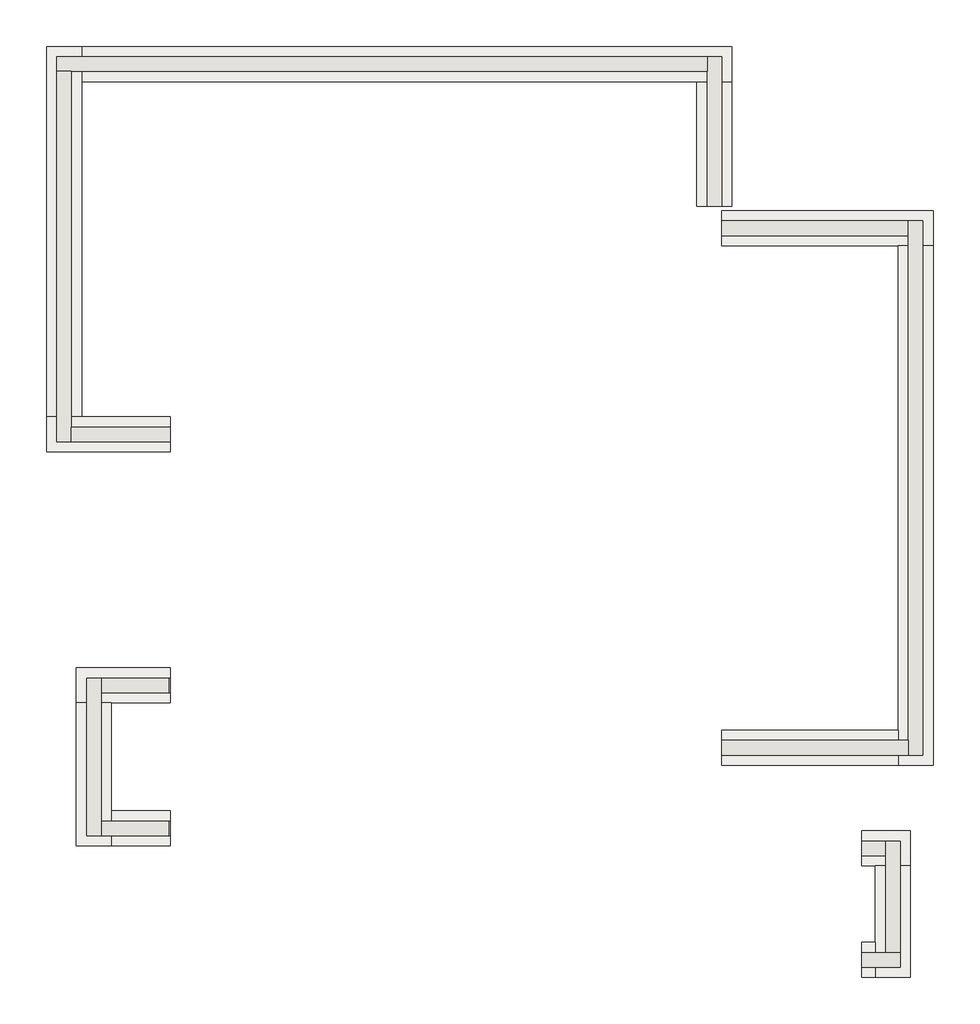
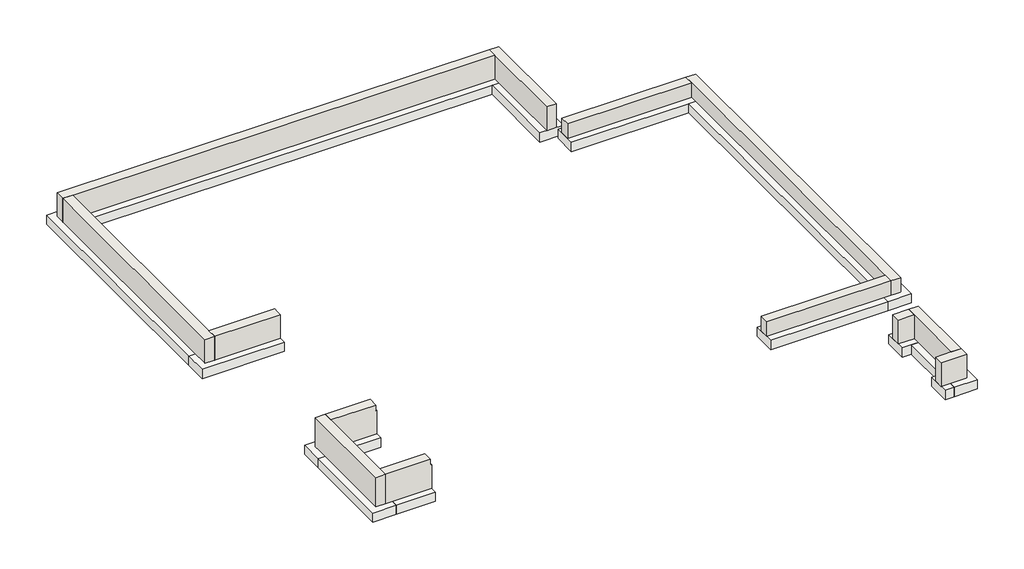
# One storey: 13 footings, 13 walls.
"""IFC4 building model written with IfcOpenShell, lengths in millimetres."""

from ifc_helpers import new_model, si_unit, frame, origin, place, context, project, spatial, polyline, outline, extrude, faceted_brep, element, save

model = new_model("IFC4")

# Units and contexts
model_context = context("Model", 3, world=origin())
ifc_project = project(units=[si_unit("LENGTHUNIT", "METRE", prefix="MILLI")], contexts=[model_context])

# Site, building, storey
site = spatial("IfcSite", under=ifc_project)
building = spatial("IfcBuilding", under=site)
storey = spatial("IfcBuildingStorey", under=building, Name="Garage T.O. Footing", Elevation=-914.4)

# Footings
placement = place(None, origin())
element("IfcFooting", 1, ObjectType="Bearing Footing - 24\" x 10\"", at=placement, inside=storey, context=model_context, shape_type="Brep", body=[
    faceted_brep([(-10703.9230992, -411.3827303, -914.4), (-10703.9230992, -1020.9827303, -914.4), (-10703.9230992, -1020.9827303, -1168.4), (-10703.9230992, -411.3827303, -1168.4), (-12343.8105992, -1020.9827303, -914.4), (-11734.2105992, -1020.9827303, -914.4), (-12343.8105992, -411.3827303, -914.4), (-12343.8105992, -411.3827303, -1168.4), (-12343.8105992, -1020.9827303, -1168.4), (-11734.2105992, -1020.9827303, -1168.4)], [[[0, 1, 2, 3]], [[4, 5, 1, 0, 6]], [[7, 6, 0, 3]], [[8, 7, 3, 2, 9]], [[4, 8, 9, 2, 1, 5]], [[4, 6, 7, 8]]]),
])
element("IfcFooting", 2, ObjectType="Bearing Footing - 24\" x 10\"", at=placement, inside=storey, context=model_context, shape_type="Brep", body=[
    faceted_brep([(-12343.8105992, -3510.1827303, -914.4), (-11734.2105992, -3510.1827303, -914.4), (-11734.2105992, -2900.5827303, -914.4), (-11734.2105992, -1020.9827303, -914.4), (-12343.8105992, -1020.9827303, -914.4), (-11734.2105992, -3510.1827303, -1168.4), (-11734.2105992, -2900.5827303, -1168.4), (-11734.2105992, -1020.9827303, -1168.4), (-12343.8105992, -3510.1827303, -1168.4), (-12343.8105992, -1020.9827303, -1168.4)], [[[0, 1, 2, 3, 4]], [[1, 5, 6, 7, 3, 2]], [[5, 8, 9, 7, 6]], [[8, 0, 4, 9]], [[4, 3, 7, 9]], [[1, 0, 8, 5]]]),
])
element("IfcFooting", 3, ObjectType="Bearing Footing - 24\" x 10\"", at=placement, inside=storey, context=model_context, shape_type="SweptSolid", body=[
    extrude(outline(polyline([(-10703.9230992, -2900.5827303), (-10703.9230992, -3510.1827303), (-11734.2105992, -3510.1827303), (-11734.2105992, -2900.5827303), (-10703.9230992, -2900.5827303)])), frame((0.0, 0.0, -1168.4), z_axis=(0.0, 0.0, 1.0), x_axis=(1.0, 0.0, 0.0)), (0.0, 0.0, 1.0), 254.0),
])
element("IfcFooting", 4, ObjectType="Bearing Footing - 24\" x 10\"", at=placement, inside=storey, context=model_context, shape_type="Brep", body=[
    faceted_brep([(1335.6769008, -3859.4327303, -914.4), (1335.6769008, -3249.8327303, -914.4), (1335.6769008, -3249.8327303, -1168.4), (1335.6769008, -3859.4327303, -1168.4), (2183.4019008, -3249.8327303, -914.4), (1573.8019008, -3859.4327303, -914.4), (2183.4019008, -3859.4327303, -914.4), (2183.4019008, -3859.4327303, -1168.4), (1573.8019008, -3859.4327303, -1168.4), (2183.4019008, -3249.8327303, -1168.4)], [[[0, 1, 2, 3]], [[4, 1, 0, 5, 6]], [[7, 6, 5, 0, 3, 8]], [[9, 7, 8, 3, 2]], [[4, 9, 2, 1]], [[4, 6, 7, 9]]]),
])
element("IfcFooting", 5, ObjectType="Bearing Footing - 24\" x 10\"", at=placement, inside=storey, context=model_context, shape_type="Brep", body=[
    faceted_brep([(1573.8019008, -5802.5327303, -914.4), (2183.4019008, -5802.5327303, -914.4), (2183.4019008, -3859.4327303, -914.4), (1573.8019008, -3859.4327303, -914.4), (1573.8019008, -5192.9327303, -914.4), (1573.8019008, -5802.5327303, -1168.4), (1573.8019008, -3859.4327303, -1168.4), (1573.8019008, -5192.9327303, -1168.4), (2183.4019008, -5802.5327303, -1168.4), (2183.4019008, -3859.4327303, -1168.4)], [[[0, 1, 2, 3, 4]], [[5, 0, 4, 3, 6, 7]], [[8, 5, 7, 6, 9]], [[1, 8, 9, 2]], [[3, 2, 9, 6]], [[1, 0, 5, 8]]]),
])
element("IfcFooting", 6, ObjectType="Bearing Footing - 24\" x 10\"", at=placement, inside=storey, context=model_context, shape_type="SweptSolid", body=[
    extrude(outline(polyline([(1335.6769008, -5802.5327303), (1335.6769008, -5192.9327303), (1573.8019008, -5192.9327303), (1573.8019008, -5802.5327303), (1335.6769008, -5802.5327303)])), frame((0.0, 0.0, -1168.4), z_axis=(0.0, 0.0, 1.0), x_axis=(1.0, 0.0, 0.0)), (0.0, 0.0, 1.0), 254.0),
])
element("IfcFooting", 7, ObjectType="Bearing Footing - 24\" x 10\"", at=placement, inside=storey, context=model_context, shape_type="Brep", body=[
    faceted_brep([(-10703.9230992, 3960.5922697, -914.4), (-10703.9230992, 3350.9922697, -914.4), (-10703.9230992, 3350.9922697, -1168.4), (-10703.9230992, 3960.5922697, -1168.4), (-12862.9230992, 3350.9922697, -914.4), (-12253.3230992, 3960.5922697, -914.4), (-12862.9230992, 3960.5922697, -914.4), (-12862.9230992, 3960.5922697, -1168.4), (-12253.3230992, 3960.5922697, -1168.4), (-12862.9230992, 3350.9922697, -1168.4)], [[[0, 1, 2, 3]], [[4, 1, 0, 5, 6]], [[7, 6, 5, 0, 3, 8]], [[9, 7, 8, 3, 2]], [[4, 9, 2, 1]], [[4, 6, 7, 9]]]),
])
element("IfcFooting", 8, ObjectType="Bearing Footing - 24\" x 10\"", at=placement, inside=storey, context=model_context, shape_type="Brep", body=[
    faceted_brep([(-12253.3230992, 10412.1922697, -914.4), (-12862.9230992, 10412.1922697, -914.4), (-12862.9230992, 3960.5922697, -914.4), (-12253.3230992, 3960.5922697, -914.4), (-12253.3230992, 9802.5922697, -914.4), (-12253.3230992, 10412.1922697, -1168.4), (-12253.3230992, 3960.5922697, -1168.4), (-12253.3230992, 9802.5922697, -1168.4), (-12862.9230992, 10412.1922697, -1168.4), (-12862.9230992, 3960.5922697, -1168.4)], [[[0, 1, 2, 3, 4]], [[5, 0, 4, 3, 6, 7]], [[8, 5, 7, 6, 9]], [[1, 8, 9, 2]], [[3, 2, 9, 6]], [[1, 0, 5, 8]]]),
])
element("IfcFooting", 9, ObjectType="Bearing Footing - 24\" x 10\"", at=placement, inside=storey, context=model_context, shape_type="Brep", body=[
    faceted_brep([(-924.9230992, 9802.5922697, -914.4), (-924.9230992, 10412.1922697, -914.4), (-12253.3230992, 10412.1922697, -914.4), (-12253.3230992, 9802.5922697, -914.4), (-1534.5230992, 9802.5922697, -914.4), (-924.9230992, 9802.5922697, -1168.4), (-12253.3230992, 9802.5922697, -1168.4), (-1534.5230992, 9802.5922697, -1168.4), (-924.9230992, 10412.1922697, -1168.4), (-12253.3230992, 10412.1922697, -1168.4)], [[[0, 1, 2, 3, 4]], [[5, 0, 4, 3, 6, 7]], [[8, 5, 7, 6, 9]], [[1, 8, 9, 2]], [[3, 2, 9, 6]], [[1, 0, 5, 8]]]),
])
element("IfcFooting", 10, ObjectType="Bearing Footing - 24\" x 10\"", at=placement, inside=storey, context=model_context, shape_type="SweptSolid", body=[
    extrude(outline(polyline([(-924.9230992, 7627.7172697), (-1534.5230992, 7627.7172697), (-1534.5230992, 9802.5922697), (-924.9230992, 9802.5922697), (-924.9230992, 7627.7172697)])), frame((0.0, 0.0, -1168.4), z_axis=(0.0, 0.0, 1.0), x_axis=(1.0, 0.0, 0.0)), (0.0, 0.0, 1.0), 254.0),
])
element("IfcFooting", 11, ObjectType="Bearing Footing - 24\" x 10\"", at=placement, inside=storey, context=model_context, shape_type="Brep", body=[
    faceted_brep([(-1102.7230992, 6941.9172697, -914.4), (-1102.7230992, 7551.5172697, -914.4), (-1102.7230992, 7551.5172697, -1168.4), (-1102.7230992, 6941.9172697, -1168.4), (1970.6769008, 6941.9172697, -914.4), (2580.2769008, 6941.9172697, -914.4), (2580.2769008, 7551.5172697, -914.4), (2580.2769008, 7551.5172697, -1168.4), (2580.2769008, 6941.9172697, -1168.4), (1970.6769008, 6941.9172697, -1168.4)], [[[0, 1, 2, 3]], [[0, 4, 5, 6, 1]], [[2, 1, 6, 7]], [[3, 2, 7, 8, 9]], [[0, 3, 9, 8, 5, 4]], [[6, 5, 8, 7]]]),
])
element("IfcFooting", 12, ObjectType="Bearing Footing - 24\" x 10\"", at=placement, inside=storey, context=model_context, shape_type="Brep", body=[
    faceted_brep([(1970.6769008, -2106.8327303, -914.4), (2580.2769008, -2106.8327303, -914.4), (2580.2769008, 6941.9172697, -914.4), (1970.6769008, 6941.9172697, -914.4), (1970.6769008, -1497.2327303, -914.4), (2580.2769008, -2106.8327303, -1168.4), (2580.2769008, 6941.9172697, -1168.4), (1970.6769008, -2106.8327303, -1168.4), (1970.6769008, -1497.2327303, -1168.4), (1970.6769008, 6941.9172697, -1168.4)], [[[0, 1, 2, 3, 4]], [[1, 5, 6, 2]], [[5, 7, 8, 9, 6]], [[7, 0, 4, 3, 9, 8]], [[3, 2, 6, 9]], [[1, 0, 7, 5]]]),
])
element("IfcFooting", 13, ObjectType="Bearing Footing - 24\" x 10\"", at=placement, inside=storey, context=model_context, shape_type="SweptSolid", body=[
    extrude(outline(polyline([(-1102.7230992, -2106.8327303), (-1102.7230992, -1497.2327303), (1970.6769008, -1497.2327303), (1970.6769008, -2106.8327303), (-1102.7230992, -2106.8327303)])), frame((0.0, 0.0, -1168.4), z_axis=(0.0, 0.0, 1.0), x_axis=(1.0, 0.0, 0.0)), (0.0, 0.0, 1.0), 254.0),
])

# Walls
element("IfcWall", 14, ObjectType="Foundation - 10\" Concrete", at=placement, inside=storey, context=model_context, shape_type="Brep", body=[
    faceted_brep([(-1102.7230992, 7627.7172697, -914.4), (-1102.7230992, 10234.3922697, -914.4), (-1102.7230992, 10234.3922697, -254.0), (-1102.7230992, 7627.7172697, -254.0), (-1356.7230992, 7627.7172697, -914.4), (-1356.7230992, 7627.7172697, -254.0), (-1356.7230992, 9980.3922697, -254.0), (-1356.7230992, 10234.3922697, -254.0), (-1356.7230992, 10234.3922697, -914.4), (-1356.7230992, 9980.3922697, -914.4)], [[[0, 1, 2, 3]], [[4, 5, 6, 7, 8, 9]], [[1, 0, 4, 9, 8]], [[3, 2, 7, 6, 5]], [[0, 3, 5, 4]], [[2, 1, 8, 7]]]),
])
element("IfcWall", 15, ObjectType="Foundation - 10\" Concrete", at=placement, inside=storey, context=model_context, shape_type="Brep", body=[
    faceted_brep([(-1356.7230992, 10234.3922697, -914.4), (-12685.1230992, 10234.3922697, -914.4), (-12685.1230992, 10234.3922697, -254.0), (-1356.7230992, 10234.3922697, -254.0), (-1356.7230992, 9980.3922697, -914.4), (-1356.7230992, 9980.3922697, -254.0), (-12431.1230992, 9980.3922697, -254.0), (-12685.1230992, 9980.3922697, -254.0), (-12685.1230992, 9980.3922697, -914.4), (-12431.1230992, 9980.3922697, -914.4)], [[[0, 1, 2, 3]], [[4, 5, 6, 7, 8, 9]], [[1, 0, 4, 9, 8]], [[3, 2, 7, 6, 5]], [[0, 3, 5, 4]], [[2, 1, 8, 7]]]),
])
element("IfcWall", 16, ObjectType="Foundation - 10\" Concrete", at=placement, inside=storey, context=model_context, shape_type="Brep", body=[
    faceted_brep([(-12685.1230992, 9980.3922697, -914.4), (-12685.1230992, 3528.7922697, -914.4), (-12685.1230992, 3528.7922697, -254.0), (-12685.1230992, 9980.3922697, -254.0), (-12431.1230992, 9980.3922697, -914.4), (-12431.1230992, 9980.3922697, -254.0), (-12431.1230992, 3782.7922697, -254.0), (-12431.1230992, 3528.7922697, -254.0), (-12431.1230992, 3528.7922697, -914.4), (-12431.1230992, 3782.7922697, -914.4)], [[[0, 1, 2, 3]], [[4, 5, 6, 7, 8, 9]], [[1, 0, 4, 9, 8]], [[3, 2, 7, 6, 5]], [[0, 3, 5, 4]], [[2, 1, 8, 7]]]),
])
element("IfcWall", 17, ObjectType="Foundation - 10\" Concrete", at=placement, inside=storey, context=model_context, shape_type="Brep", body=[
    faceted_brep([(-12431.1230992, 3528.7922697, -914.4), (-10703.9230992, 3528.7922697, -914.4), (-10703.9230992, 3528.7922697, -254.0), (-12431.1230992, 3528.7922697, -254.0), (-12431.1230992, 3782.7922697, -914.4), (-12431.1230992, 3782.7922697, -254.0), (-10703.9230992, 3782.7922697, -254.0), (-10703.9230992, 3782.7922697, -914.4), (-10703.9230992, 3665.3172697, -254.0)], [[[0, 1, 2, 3]], [[4, 5, 6, 7]], [[1, 0, 4, 7]], [[3, 2, 8, 6, 5]], [[0, 3, 5, 4]], [[2, 1, 7, 6, 8]]]),
])
element("IfcWall", 18, ObjectType="Foundation - 10\" Concrete", at=placement, inside=storey, context=model_context, shape_type="Brep", body=[
    faceted_brep([(1335.6769008, -5624.7327303, -914.4), (2005.6019008, -5624.7327303, -914.4), (2005.6019008, -5624.7327303, -254.0), (1335.6769008, -5624.7327303, -254.0), (1335.6769008, -5370.7327303, -914.4), (1335.6769008, -5370.7327303, -254.0), (1751.6019008, -5370.7327303, -254.0), (2005.6019008, -5370.7327303, -254.0), (2005.6019008, -5370.7327303, -914.4), (1751.6019008, -5370.7327303, -914.4)], [[[0, 1, 2, 3]], [[4, 5, 6, 7, 8, 9]], [[1, 0, 4, 9, 8]], [[3, 2, 7, 6, 5]], [[2, 1, 8, 7]], [[0, 3, 5, 4]]]),
])
element("IfcWall", 19, ObjectType="Foundation - 10\" Concrete", at=placement, inside=storey, context=model_context, shape_type="Brep", body=[
    faceted_brep([(2005.6019008, -5370.7327303, -914.4), (2005.6019008, -3427.6327303, -914.4), (2005.6019008, -3427.6327303, -254.0), (2005.6019008, -5370.7327303, -254.0), (1751.6019008, -5370.7327303, -914.4), (1751.6019008, -5370.7327303, -254.0), (1751.6019008, -3681.6327303, -254.0), (1751.6019008, -3427.6327303, -254.0), (1751.6019008, -3427.6327303, -914.4), (1751.6019008, -3681.6327303, -914.4)], [[[0, 1, 2, 3]], [[4, 5, 6, 7, 8, 9]], [[1, 0, 4, 9, 8]], [[3, 2, 7, 6, 5]], [[0, 3, 5, 4]], [[2, 1, 8, 7]]]),
])
element("IfcWall", 20, ObjectType="Foundation - 10\" Concrete", at=placement, inside=storey, context=model_context, shape_type="SweptSolid", body=[
    extrude(outline(polyline([(1335.6769008, -3427.6327303), (1751.6019008, -3427.6327303), (1751.6019008, -3681.6327303), (1335.6769008, -3681.6327303), (1335.6769008, -3427.6327303)])), frame((0.0, 0.0, -914.4), z_axis=(0.0, 0.0, 1.0), x_axis=(1.0, 0.0, 0.0)), (0.0, 0.0, 1.0), 660.4),
])
element("IfcWall", 21, ObjectType="Foundation - 10\" Concrete", at=placement, inside=storey, context=model_context, shape_type="Brep", body=[
    faceted_brep([(-12166.0105992, -589.1827303, -914.4), (-12166.0105992, -3332.3827303, -914.4), (-12166.0105992, -3332.3827303, -101.6), (-12166.0105992, -589.1827303, -101.6), (-11912.0105992, -589.1827303, -914.4), (-11912.0105992, -589.1827303, -101.6), (-11912.0105992, -843.1827303, -101.6), (-11912.0105992, -3078.3827303, -101.6), (-11912.0105992, -3332.3827303, -101.6), (-11912.0105992, -3332.3827303, -914.4), (-11912.0105992, -3078.3827303, -914.4), (-11912.0105992, -843.1827303, -914.4)], [[[0, 1, 2, 3]], [[4, 5, 6, 7, 8, 9, 10, 11]], [[1, 0, 4, 11, 10, 9]], [[3, 2, 8, 7, 6, 5]], [[2, 1, 9, 8]], [[0, 3, 5, 4]]]),
])
element("IfcWall", 22, ObjectType="Foundation - 10\" Concrete", at=placement, inside=storey, context=model_context, shape_type="Brep", body=[
    faceted_brep([(-11912.0105992, -3332.3827303, -914.4), (-10703.9230992, -3332.3827303, -914.4), (-10703.9230992, -3332.3827303, -254.0), (-10732.4980992, -3332.3827303, -254.0), (-10732.4980992, -3332.3827303, -101.6), (-11912.0105992, -3332.3827303, -101.6), (-11912.0105992, -3078.3827303, -914.4), (-11912.0105992, -3078.3827303, -101.6), (-10732.4980992, -3078.3827303, -101.6), (-10732.4980992, -3078.3827303, -254.0), (-10703.9230992, -3078.3827303, -254.0), (-10703.9230992, -3078.3827303, -914.4), (-10703.9230992, -3227.6077303, -254.0)], [[[0, 1, 2, 3, 4, 5]], [[6, 7, 8, 9, 10, 11]], [[1, 0, 6, 11]], [[5, 4, 8, 7]], [[0, 5, 7, 6]], [[9, 3, 2, 12, 10]], [[2, 1, 11, 10, 12]], [[4, 3, 9, 8]]]),
])
element("IfcWall", 23, ObjectType="Foundation - 10\" Concrete", at=placement, inside=storey, context=model_context, shape_type="SweptSolid", body=[
    extrude(outline(polyline([(-914.4, -11912.0105992), (-914.4, -10703.9230992), (-254.0, -10703.9230992), (-254.0, -10732.4980992), (-101.6, -10732.4980992), (-101.6, -11912.0105992), (-914.4, -11912.0105992)])), frame((0.0, -843.1827303, 0.0), z_axis=(0.0, 1.0, 0.0), x_axis=(0.0, 0.0, 1.0)), (0.0, 0.0, 1.0), 254.0),
])
element("IfcWall", 24, ObjectType="Foundation - 10\" Concrete", at=placement, inside=storey, context=model_context, shape_type="SweptSolid", body=[
    extrude(outline(polyline([(2148.4769008, 7119.7172697), (-1102.7230992, 7119.7172697), (-1102.7230992, 7373.7172697), (2148.4769008, 7373.7172697), (2148.4769008, 7119.7172697)])), frame((0.0, 0.0, -914.4), z_axis=(0.0, 0.0, 1.0), x_axis=(1.0, 0.0, 0.0)), (0.0, 0.0, 1.0), 406.4),
])
element("IfcWall", 25, ObjectType="Foundation - 10\" Concrete", at=placement, inside=storey, context=model_context, shape_type="Brep", body=[
    faceted_brep([(2148.4769008, 7373.7172697, -914.4), (2148.4769008, 7119.7172697, -914.4), (2148.4769008, -1675.0327303, -914.4), (2148.4769008, -1929.0327303, -914.4), (2148.4769008, -1929.0327303, -508.0), (2148.4769008, -1675.0327303, -508.0), (2148.4769008, 7119.7172697, -508.0), (2148.4769008, 7373.7172697, -508.0), (2402.4769008, 7373.7172697, -914.4), (2402.4769008, 7373.7172697, -508.0), (2402.4769008, -1929.0327303, -508.0), (2402.4769008, -1929.0327303, -914.4)], [[[0, 1, 2, 3, 4, 5, 6, 7]], [[8, 9, 10, 11]], [[3, 2, 1, 0, 8, 11]], [[7, 6, 5, 4, 10, 9]], [[0, 7, 9, 8]], [[4, 3, 11, 10]]]),
])
element("IfcWall", 26, ObjectType="Foundation - 10\" Concrete", at=placement, inside=storey, context=model_context, shape_type="SweptSolid", body=[
    extrude(outline(polyline([(-1102.7230992, -1675.0327303), (2148.4769008, -1675.0327303), (2148.4769008, -1929.0327303), (-1102.7230992, -1929.0327303), (-1102.7230992, -1675.0327303)])), frame((0.0, 0.0, -914.4), z_axis=(0.0, 0.0, 1.0), x_axis=(1.0, 0.0, 0.0)), (0.0, 0.0, 1.0), 406.4),
])

save(model, "model.ifc")
